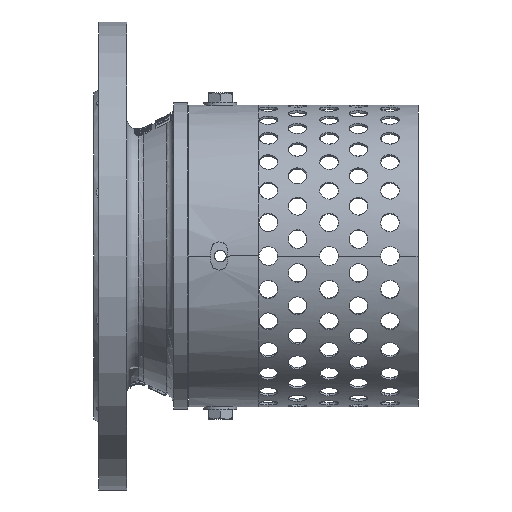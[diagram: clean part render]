
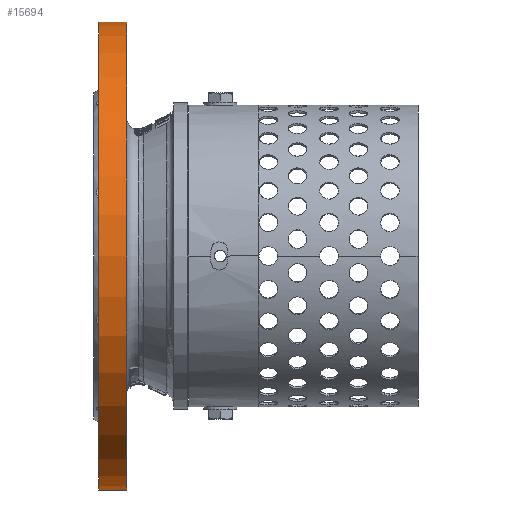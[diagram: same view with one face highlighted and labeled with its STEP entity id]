
A CAD part, left-side view. The second image highlights one B-rep face of the part: STEP entity #15694.
In plain terms, the highlighted cylindrical face has radius 100 mm (diameter 200 mm), a partial arc.
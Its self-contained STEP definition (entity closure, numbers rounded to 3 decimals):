
#3203 = ORIENTED_EDGE ( 'NONE', *, *, #46272, .F. ) ;
#4592 = CIRCLE ( 'NONE', #33212, 100. ) ;
#6702 = CARTESIAN_POINT ( 'NONE',  ( 0., 65., 100. ) ) ;
#7904 = CARTESIAN_POINT ( 'NONE',  ( 0., 53., 100. ) ) ;
#8391 = DIRECTION ( 'NONE',  ( 0., 0., -1. ) ) ;
#11379 = VERTEX_POINT ( 'NONE', #6702 ) ;
#14663 = DIRECTION ( 'NONE',  ( 0., -1., 0. ) ) ;
#15694 = ADVANCED_FACE ( 'NONE', ( #27655 ), #44263, .T. ) ;
#15805 = ORIENTED_EDGE ( 'NONE', *, *, #24769, .T. ) ;
#15948 = EDGE_LOOP ( 'NONE', ( #3203, #15805, #44793, #39890 ) ) ;
#18556 = CIRCLE ( 'NONE', #25486, 100. ) ;
#19024 = CARTESIAN_POINT ( 'NONE',  ( 0., 53., 0. ) ) ;
#24769 = EDGE_CURVE ( 'NONE', #11379, #34901, #18556, .T. ) ;
#25486 = AXIS2_PLACEMENT_3D ( 'NONE', #34997, #46719, #34459 ) ;
#26338 = CARTESIAN_POINT ( 'NONE',  ( 0., 53., -100. ) ) ;
#27655 = FACE_OUTER_BOUND ( 'NONE', #15948, .T. ) ;
#30390 = EDGE_CURVE ( 'NONE', #34901, #39700, #51629, .T. ) ;
#33212 = AXIS2_PLACEMENT_3D ( 'NONE', #19024, #39418, #35871 ) ;
#34459 = DIRECTION ( 'NONE',  ( 0., 0., -1. ) ) ;
#34901 = VERTEX_POINT ( 'NONE', #49672 ) ;
#34997 = CARTESIAN_POINT ( 'NONE',  ( 0., 65., 0. ) ) ;
#35712 = VERTEX_POINT ( 'NONE', #7904 ) ;
#35871 = DIRECTION ( 'NONE',  ( 0., 0., -1. ) ) ;
#36689 = DIRECTION ( 'NONE',  ( 0., -1., 0. ) ) ;
#37901 = EDGE_CURVE ( 'NONE', #35712, #39700, #4592, .T. ) ;
#38222 = DIRECTION ( 'NONE',  ( 0., -1., 0. ) ) ;
#39418 = DIRECTION ( 'NONE',  ( 0., -1., 0. ) ) ;
#39700 = VERTEX_POINT ( 'NONE', #26338 ) ;
#39890 = ORIENTED_EDGE ( 'NONE', *, *, #37901, .F. ) ;
#41017 = VECTOR ( 'NONE', #36689, 1000. ) ;
#41574 = LINE ( 'NONE', #41841, #41017 ) ;
#41841 = CARTESIAN_POINT ( 'NONE',  ( 0., -25.412, 100. ) ) ;
#42067 = CARTESIAN_POINT ( 'NONE',  ( 0., -25.412, 0. ) ) ;
#44263 = CYLINDRICAL_SURFACE ( 'NONE', #46231, 100. ) ;
#44793 = ORIENTED_EDGE ( 'NONE', *, *, #30390, .T. ) ;
#46231 = AXIS2_PLACEMENT_3D ( 'NONE', #42067, #38222, #8391 ) ;
#46272 = EDGE_CURVE ( 'NONE', #11379, #35712, #41574, .T. ) ;
#46719 = DIRECTION ( 'NONE',  ( 0., -1., 0. ) ) ;
#49672 = CARTESIAN_POINT ( 'NONE',  ( 0., 65., -100. ) ) ;
#51629 = LINE ( 'NONE', #51891, #52338 ) ;
#51891 = CARTESIAN_POINT ( 'NONE',  ( 0., -25.412, -100. ) ) ;
#52338 = VECTOR ( 'NONE', #14663, 1000. ) ;
